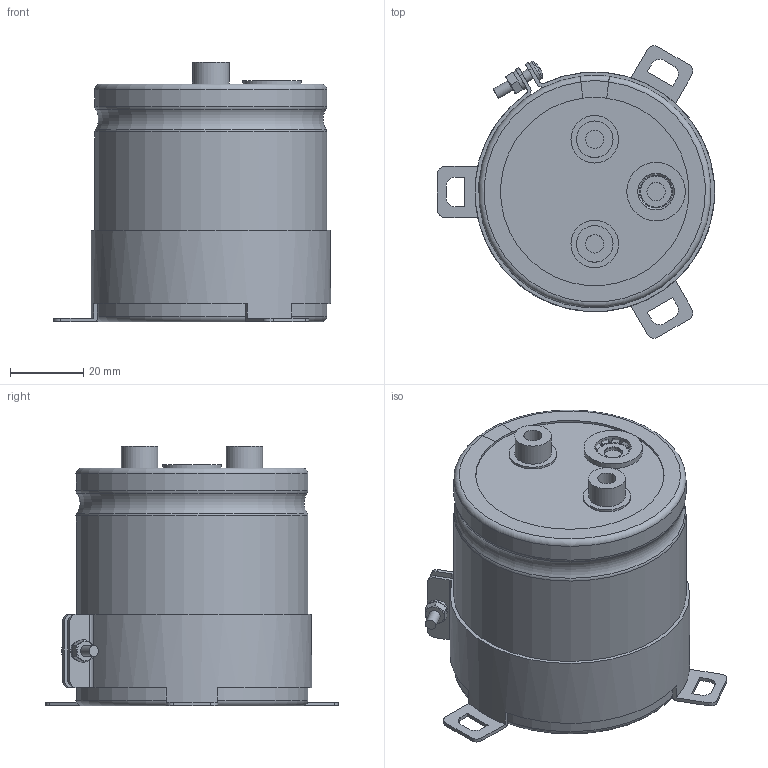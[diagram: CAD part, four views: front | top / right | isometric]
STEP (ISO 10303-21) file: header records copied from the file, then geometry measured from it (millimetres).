
FILE_DESCRIPTION(/* description */ (''),/* implementation_level */ '2;1');
FILE_NAME(/* name */ '63.5x65_Screw.stp',/* time_stamp */ '2017-09-03T11:50:33+09:00',/* author */ (''),/* organization */ (''),/* preprocessor_version */ 'ST-DEVELOPER v16',/* originating_system */ 'SIEMENS PLM Software NX 11.0',/* authorisation */ '');
FILE_SCHEMA (('AUTOMOTIVE_DESIGN { 1 0 10303 214 3 1 1 1 }'));
Length unit declared in the file: millimetre
Products named in the file (1): 63.5x65_Screw
Bounding box: 75.75 x 80.01 x 71 mm (x, y, z)
Volume: 208025.7 mm3; surface area: 60093.5 mm2
Topology: 9 solids, 9 shells, 259 faces, 644 edges, 415 vertices
Faces by surface type: plane 112, cylinder 66, torus 49, cone 31, sphere 1
Full cylindrical faces by diameter (mm): 3 x5, 5 x6, 5.5 x2, 10 x4, 13 x2, 16 x1, 62.3 x2
Entity records: 8411 total; most frequent: CARTESIAN_POINT 2059, DIRECTION 1296, ORIENTED_EDGE 1214, EDGE_CURVE 607, AXIS2_PLACEMENT_3D 541, VERTEX_POINT 408, EDGE_LOOP 317, CIRCLE 281
